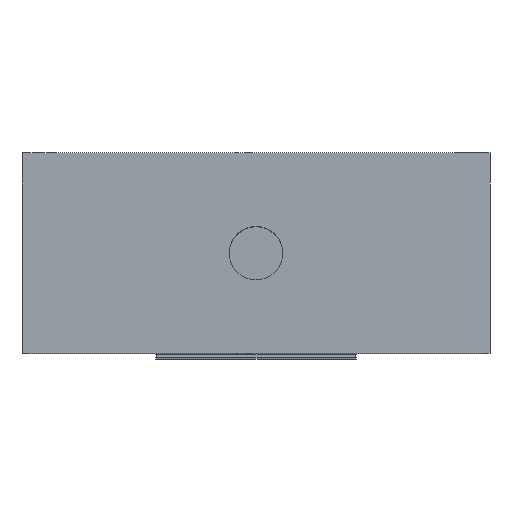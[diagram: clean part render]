
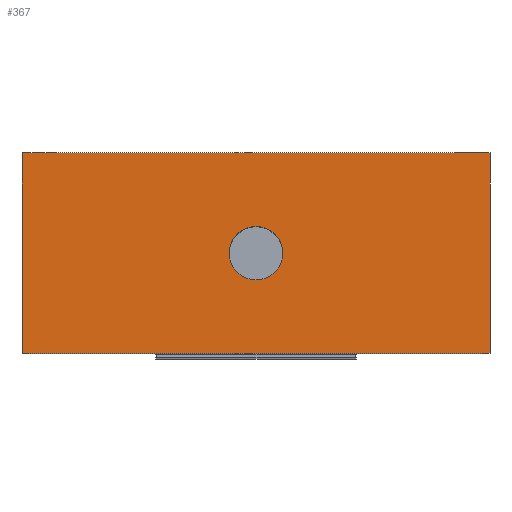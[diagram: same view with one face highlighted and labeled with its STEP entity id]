
A CAD part, top view. The second image highlights one B-rep face of the part: STEP entity #367.
In plain terms, the highlighted planar face has unit normal (0, 0, 1).
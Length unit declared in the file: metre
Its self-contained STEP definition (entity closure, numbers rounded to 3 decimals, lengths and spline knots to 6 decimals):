
#21=CIRCLE('',#418,0.0008);
#54=ORIENTED_EDGE('',*,*,#147,.T.);
#55=ORIENTED_EDGE('',*,*,#146,.T.);
#56=ORIENTED_EDGE('',*,*,#148,.T.);
#57=ORIENTED_EDGE('',*,*,#133,.T.);
#58=ORIENTED_EDGE('',*,*,#149,.T.);
#133=EDGE_CURVE('',#183,#181,#216,.T.);
#146=EDGE_CURVE('',#188,#191,#226,.T.);
#147=EDGE_CURVE('',#192,#192,#21,.T.);
#148=EDGE_CURVE('',#191,#183,#227,.T.);
#149=EDGE_CURVE('',#181,#188,#228,.T.);
#181=VERTEX_POINT('',#563);
#183=VERTEX_POINT('',#566);
#188=VERTEX_POINT('',#581);
#191=VERTEX_POINT('',#588);
#192=VERTEX_POINT('',#592);
#216=LINE('',#565,#260);
#226=LINE('',#589,#270);
#227=LINE('',#593,#271);
#228=LINE('',#594,#272);
#260=VECTOR('',#456,1.);
#270=VECTOR('',#476,1.);
#271=VECTOR('',#481,1.);
#272=VECTOR('',#482,1.);
#300=EDGE_LOOP('',(#54));
#301=EDGE_LOOP('',(#55,#56,#57,#58));
#324=FACE_BOUND('',#300,.T.);
#325=FACE_BOUND('',#301,.T.);
#348=PLANE('',#417);
#367=ADVANCED_FACE('',(#324,#325),#348,.T.);
#417=AXIS2_PLACEMENT_3D('',#590,#477,#478);
#418=AXIS2_PLACEMENT_3D('',#591,#479,#480);
#456=DIRECTION('',(1.,0.,0.));
#476=DIRECTION('',(-1.,0.,0.));
#477=DIRECTION('',(0.,0.,1.));
#478=DIRECTION('',(0.,-1.,0.));
#479=DIRECTION('',(0.,0.,-1.));
#480=DIRECTION('',(0.,-1.,0.));
#481=DIRECTION('',(0.,-1.,0.));
#482=DIRECTION('',(0.,1.,0.));
#563=CARTESIAN_POINT('',(0.065,-0.085,0.096));
#565=CARTESIAN_POINT('',(0.051,-0.085,0.096));
#566=CARTESIAN_POINT('',(0.051,-0.085,0.096));
#581=CARTESIAN_POINT('',(0.065,-0.079,0.096));
#588=CARTESIAN_POINT('',(0.051,-0.079,0.096));
#589=CARTESIAN_POINT('',(0.065,-0.079,0.096));
#590=CARTESIAN_POINT('',(0.058,-0.082,0.096));
#591=CARTESIAN_POINT('',(0.058,-0.082,0.096));
#592=CARTESIAN_POINT('',(0.058,-0.0828,0.096));
#593=CARTESIAN_POINT('',(0.051,-0.079,0.096));
#594=CARTESIAN_POINT('',(0.065,-0.085,0.096));
